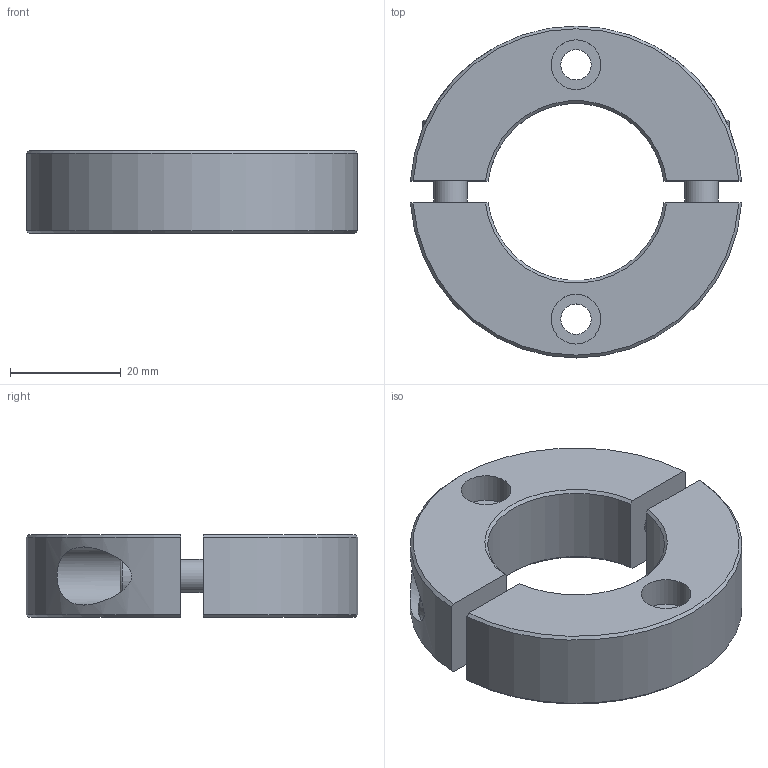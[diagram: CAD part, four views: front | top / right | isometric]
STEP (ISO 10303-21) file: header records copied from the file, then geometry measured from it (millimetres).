
FILE_DESCRIPTION( ( 'STEP AP203' ), '1' );
FILE_NAME( 'C:/Temp/Ganter_Step_05_03_2020/data/3_2/gn7072_2/Split Stainless Steel-Set collar GN 7072.2-60-B32-NI-B.stp', '2020-03-13T05:41:01', ( 'License CC BY-ND 4.0' ), ( 'CADENAS' ), ' ', 'PARTsolutions', ' ' );
FILE_SCHEMA( ( 'CONFIG_CONTROL_DESIGN' ) );
Length unit declared in the file: millimetre
Products named in the file (1): _Split Stainless Steel-Set collar GN 7072.2-60-B32-NI-B
Bounding box: 59.87 x 60 x 15 mm (x, y, z)
Volume: 26296.2 mm3; surface area: 10733.1 mm2
Topology: 1 solids, 1 shells, 56 faces, 131 edges, 89 vertices
Faces by surface type: plane 30, cylinder 16, cone 8, torus 2
Full cylindrical faces by diameter (mm): 5.5 x2, 6 x2, 6.4 x2, 9 x2, 10 x2, 10.5 x2
Entity records: 1713 total; most frequent: CARTESIAN_POINT 460, DIRECTION 246, ORIENTED_EDGE 220, EDGE_CURVE 110, AXIS2_PLACEMENT_3D 97, EDGE_LOOP 88, VERTEX_POINT 82, FACE_OUTER_BOUND 70
